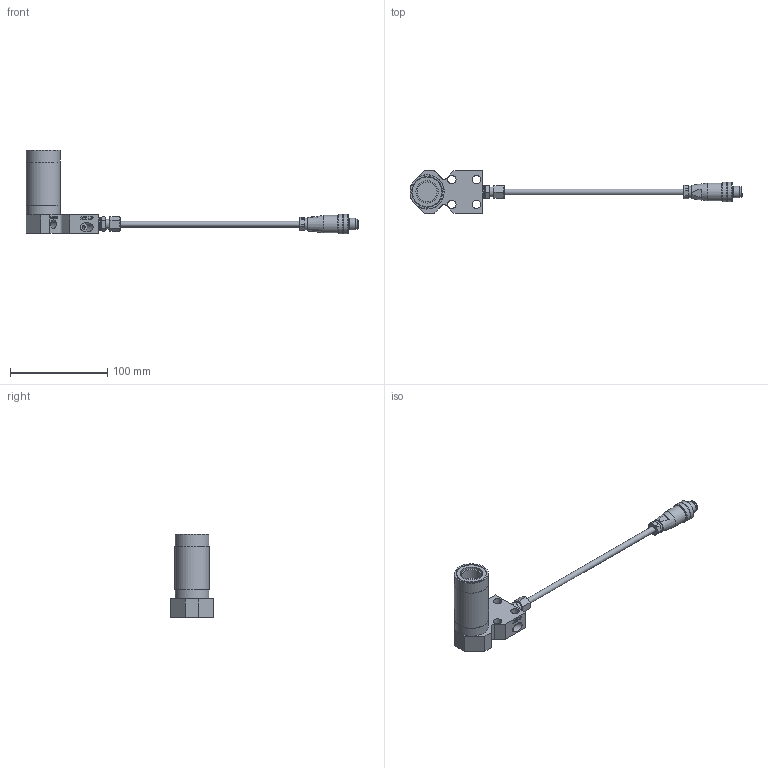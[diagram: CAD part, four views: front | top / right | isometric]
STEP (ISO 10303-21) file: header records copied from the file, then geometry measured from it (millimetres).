
FILE_DESCRIPTION(/* description */ ('ASSEMBLY,BODY,NUTWELD,VFSXTR3_NID.ipt'),/* implementation_level */ '2;1');
FILE_NAME(/* name */ 'C:\Users\sarah.nichol\Documents\SXTR3 CUSTOMER DOCUMENTS\VF,LVDT,SXTR3,TM,S,NHP,N,CUSTOMER.stp',/* time_stamp */ '2015-06-17T14:06:46-04:00',/* author */ ('sarah.nichol'),/* organization */ (''),/* preprocessor_version */ 'ST-DEVELOPER v15.2',/* originating_system */ 'Autodesk Inventor 2014',/* authorisation */ '');
FILE_SCHEMA (('AUTOMOTIVE_DESIGN { 1 0 10303 214 3 1 1 }'));
Length unit declared in the file: millimetre
Products named in the file (5): ASSEMBLY,BODY,NUTWELD,VFSXTR3_NID; FIT,BRASS,STR,COMPRESS,6MMTUBE,1_8_BSPP_0000766911; TUBE,PLASTIC,CLEAR,4MMIDX6MMOD_0000473953.ipt ; CONNECTOR,  MALE, STR, 5-POS,  M12_0000523820; VF,LVDT,SXTR3,TM,S,NHP,N,CUSTOMER
Assembly tree (4 placements, depth 2):
  VF,LVDT,SXTR3,TM,S,NHP,N,CUSTOMER
    ASSEMBLY,BODY,NUTWELD,VFSXTR3_NID
    FIT,BRASS,STR,COMPRESS,6MMTUBE,1_8_BSPP_0000766911
    TUBE,PLASTIC,CLEAR,4MMIDX6MMOD_0000473953.ipt 
    CONNECTOR,  MALE, STR, 5-POS,  M12_0000523820
Bounding box: 341.66 x 44.2 x 86.22 mm (x, y, z)
Volume: 111191.9 mm3; surface area: 50687.1 mm2
Topology: 4 solids, 4 shells, 603 faces, 1526 edges, 1005 vertices
Faces by surface type: plane 396, cylinder 81, bspline 74, cone 47, sphere 5
Full cylindrical faces by diameter (mm): 0.217 x1, 1 x5, 3 x1, 4 x2, 4.064 x2, 6 x2, 7 x1, 8.3 x1, 8.731 x7, 9.525 x2, 9.73 x1, 10 x2, 10.2 x1, 10.5 x1, 12 x2, 12.7 x1, 14 x1, 16 x1, 18 x1, 20 x1, 20.05 x1, 20.637 x2, 23.019 x1, 28.829 x3, 31.496 x4, 31.623 x1, 34.925 x2, 35.179 x1
Entity records: 18577 total; most frequent: CARTESIAN_POINT 4306, ORIENTED_EDGE 2830, DIRECTION 2498, EDGE_CURVE 1415, LINE 984, VECTOR 984, VERTEX_POINT 967, EDGE_LOOP 762
